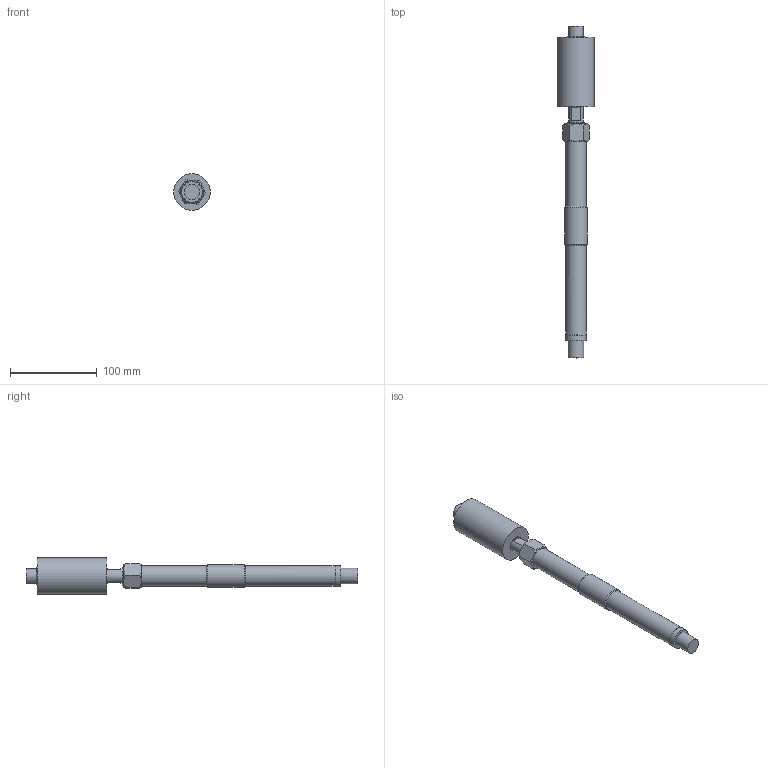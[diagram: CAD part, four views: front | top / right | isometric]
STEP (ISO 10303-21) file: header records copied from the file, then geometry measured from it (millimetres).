
FILE_DESCRIPTION (( 'STEP AP203' ), '1' );
FILE_NAME ('YICZ100PHLLLC-1(0).STEP', '2023-08-08T07:53:54', ( '' ), ( '' ), 'SwSTEP 2.0', 'SolidWorks 2021', '' );
FILE_SCHEMA (( 'CONFIG_CONTROL_DESIGN' ));
Length unit declared in the file: millimetre
Products named in the file (1): YICZ100PHLLLC-1(0)
Bounding box: 42 x 383 x 42 mm (x, y, z)
Volume: 233984.1 mm3; surface area: 63618.8 mm2
Topology: 1 solids, 1 shells, 66 faces, 153 edges, 101 vertices
Faces by surface type: plane 32, cylinder 17, cone 16, torus 1
Full cylindrical faces by diameter (mm): 1.7 x2, 16.2 x1, 17 x3, 18 x2, 19 x1, 23.5 x2, 24 x1, 26.441 x1, 42 x1
Entity records: 1939 total; most frequent: CARTESIAN_POINT 469, DIRECTION 292, ORIENTED_EDGE 250, EDGE_CURVE 125, AXIS2_PLACEMENT_3D 124, EDGE_LOOP 102, VERTEX_POINT 93, FACE_OUTER_BOUND 81
